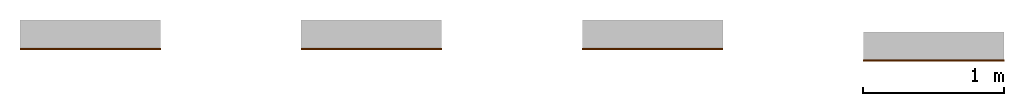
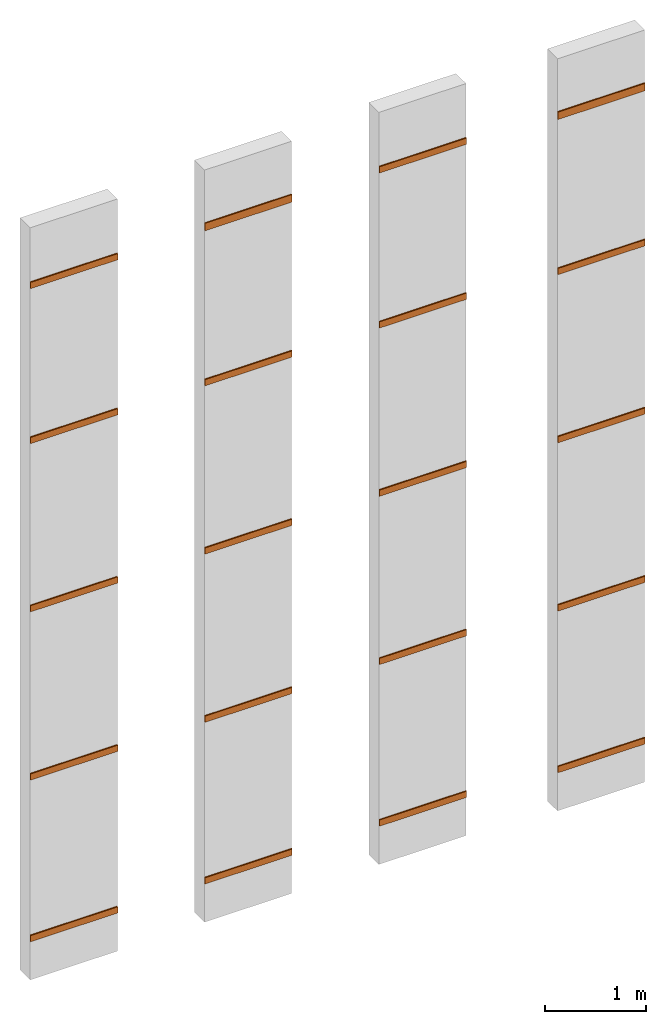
# One storey, part 2 of 2: 20 proxies.
"""IFC2X3 building model written with IfcOpenShell, lengths in millimetres."""

import ifcopenshell
import ifcopenshell.guid

model = None  # the IFC model being written
_history = None  # IfcOwnerHistory: only IFC2X3 demands one
_inside = {}  # id of a spatial element -> (the spatial element, [elements in it])
_under = {}  # id of a project, library or spatial element -> (it, [spatial elements below it])
_declared = {}  # id of a project -> (the project, [libraries it declares])
_typed = {}  # id of a type object -> (the type object, [elements of that type])
_made_of = {}  # id of a material, layer set ... -> (it, [elements and type objects made of it])


def new_model(schema):
    """Start an empty IFC model of exactly this schema.

    Asked for "IFC4X3", IfcOpenShell would pick the latest addendum, in which some entities
    have other attributes; the version numbers below select the first issue.
    IFC2X3 requires an IfcOwnerHistory on every rooted entity: one is made here for all.
    """
    global model, _history
    if schema == "IFC4X3":
        model = ifcopenshell.file(schema_version=(4, 3, 0, 0))
    else:
        model = ifcopenshell.file(schema=schema)
    _inside.clear()
    _under.clear()
    _declared.clear()
    _typed.clear()
    _made_of.clear()
    _history = None
    if model.schema == "IFC2X3":
        org = make("IfcOrganization", Name="unknown")
        user = make(
            "IfcPersonAndOrganization",
            ThePerson=make("IfcPerson", FamilyName="unknown"),
            TheOrganization=org,
        )
        app = make(
            "IfcApplication",
            ApplicationDeveloper=org,
            Version="unknown",
            ApplicationFullName="unknown",
            ApplicationIdentifier="unknown",
        )
        _history = make(
            "IfcOwnerHistory",
            OwningUser=user,
            OwningApplication=app,
            ChangeAction="ADDED",
            CreationDate=0,
        )
    return model


def make(cls, **values):
    """One entity of the class cls with the attributes given. An attribute that is None is left unset."""
    return model.create_entity(
        cls, **{name: value for name, value in values.items() if value is not None}
    )


def entity(cls, *values):
    """Any entity or typed value of the class cls, its attributes in the order of the schema. None: left unset."""
    e = model.create_entity(cls)
    for i, value in enumerate(values):
        if value is not None:
            e[i] = value
    return e


def rooted(cls, **values):
    """An entity with a GlobalId (a new one), such as an element, a storey or a relation."""
    return make(cls, GlobalId=ifcopenshell.guid.new(), OwnerHistory=_history, **values)


def si_unit(unit_type, name, prefix=None):
    """IfcSIUnit, for example si_unit("LENGTHUNIT", "METRE", prefix="MILLI")."""
    return make("IfcSIUnit", UnitType=unit_type, Prefix=prefix, Name=name)


def converted_unit(unit_type, name, factor, base, dimensions=None, offset=None):
    """IfcConversionBasedUnit, such as the inch: factor (a typed value) times the base unit."""
    return make(
        "IfcConversionBasedUnit"
        if offset is None
        else "IfcConversionBasedUnitWithOffset",
        ConversionOffset=offset,
        Dimensions=None
        if dimensions is None
        else entity("IfcDimensionalExponents", *dimensions),
        UnitType=unit_type,
        Name=name,
        ConversionFactor=make(
            "IfcMeasureWithUnit", ValueComponent=factor, UnitComponent=base
        ),
    )


def derived_unit(unit_type, elements):
    """IfcDerivedUnit: a product of units, each with its exponent."""
    return make(
        "IfcDerivedUnit",
        Elements=[
            make("IfcDerivedUnitElement", Unit=unit, Exponent=power)
            for unit, power in elements
        ],
        UnitType=unit_type,
    )


def assignment(units):
    """IfcUnitAssignment: the units of a project."""
    return None if units is None else make("IfcUnitAssignment", Units=units)


def point(xyz):
    """IfcCartesianPoint."""
    return None if xyz is None else make("IfcCartesianPoint", Coordinates=xyz)


def direction(xyz):
    """IfcDirection."""
    return None if xyz is None else make("IfcDirection", DirectionRatios=xyz)


def frame(location, z_axis=None, x_axis=None):
    """IfcAxis2Placement3D, a coordinate frame: its origin and axes. An axis left out is left unset."""
    return make(
        "IfcAxis2Placement3D",
        Location=point(location),
        Axis=direction(z_axis),
        RefDirection=direction(x_axis),
    )


def frame_2d(location, x_axis=None):
    """IfcAxis2Placement2D, a coordinate frame in the plane: its origin and x axis."""
    return make(
        "IfcAxis2Placement2D", Location=point(location), RefDirection=direction(x_axis)
    )


def origin():
    """The frame at (0, 0, 0) with its axes left unset."""
    return frame((0.0, 0.0, 0.0))


def place(relative_to, where):
    """IfcLocalPlacement: puts the frame where relative to a parent placement (None: the world)."""
    return make(
        "IfcLocalPlacement", PlacementRelTo=relative_to, RelativePlacement=where
    )


def context(
    kind, dimensions, precision=None, world=None, true_north=None, identifier=None
):
    """IfcGeometricRepresentationContext, for example the 3D "Model" context."""
    return make(
        "IfcGeometricRepresentationContext",
        ContextIdentifier=identifier,
        ContextType=kind,
        CoordinateSpaceDimension=dimensions,
        Precision=precision,
        WorldCoordinateSystem=world,
        TrueNorth=true_north,
    )


def subcontext(parent, identifier, kind, view, scale=None):
    """IfcGeometricRepresentationSubContext, for example "Body" below "Model"."""
    return make(
        "IfcGeometricRepresentationSubContext",
        ContextIdentifier=identifier,
        ContextType=kind,
        ParentContext=parent,
        TargetScale=scale,
        TargetView=view,
    )


def project(units=None, contexts=None):
    """IfcProject with its units and contexts."""
    return rooted(
        "IfcProject",
        Name="project",
        RepresentationContexts=contexts,
        UnitsInContext=assignment(units),
    )


def spatial(cls, under=None, at=None, **own):
    """A site, building, storey or space (cls), placed at a placement, below another one or the project."""
    s = rooted(cls, ObjectPlacement=at, **own)
    if under is not None:
        _under.setdefault(under.id(), (under, []))[1].append(s)
    return s


def polyline(points):
    """IfcPolyline through the points."""
    return make("IfcPolyline", Points=[point(p) for p in points])


def circle_curve(where, radius):
    """IfcCircle in the frame where."""
    return make("IfcCircle", Position=where, Radius=radius)


def parameter(value):
    """IfcParameterValue: where a trimmed curve begins or ends, as a parameter of its basis curve."""
    return model.create_entity("IfcParameterValue", value)


def trimmed(basis, trim1, trim2, sense, master):
    """IfcTrimmedCurve: the piece of a basis curve between two trims."""
    return make(
        "IfcTrimmedCurve",
        BasisCurve=basis,
        Trim1=trim1,
        Trim2=trim2,
        SenseAgreement=sense,
        MasterRepresentation=master,
    )


def segment(curve, same_sense, transition):
    """IfcCompositeCurveSegment."""
    return make(
        "IfcCompositeCurveSegment",
        Transition=transition,
        SameSense=same_sense,
        ParentCurve=curve,
    )


def composite_curve(segments, self_intersect=None):
    """IfcCompositeCurve: segments joined end to end."""
    return make("IfcCompositeCurve", Segments=segments, SelfIntersect=self_intersect)


def outline(outer, holes=None, kind="AREA"):
    """IfcArbitraryClosedProfileDef: a profile drawn as a closed curve; with holes, ...WithVoids."""
    if holes is None:
        return make("IfcArbitraryClosedProfileDef", ProfileType=kind, OuterCurve=outer)
    return make(
        "IfcArbitraryProfileDefWithVoids",
        ProfileType=kind,
        OuterCurve=outer,
        InnerCurves=holes,
    )


def extrude(swept, where, along, depth):
    """IfcExtrudedAreaSolid: the profile swept, set in the frame where, extruded along a direction by depth."""
    return make(
        "IfcExtrudedAreaSolid",
        SweptArea=swept,
        Position=where,
        ExtrudedDirection=direction(along),
        Depth=depth,
    )


def shape(context_of_items, identifier, shape_type, items):
    """IfcShapeRepresentation: the items that make up one representation, for example the "Body"."""
    return make(
        "IfcShapeRepresentation",
        ContextOfItems=context_of_items,
        RepresentationIdentifier=identifier,
        RepresentationType=shape_type,
        Items=items,
    )


def made_of(thing, what):
    """Note that an element or type object is made of a material, layer set ...; save() writes the relation."""
    if what is not None:
        _made_of.setdefault(what.id(), (what, []))[1].append(thing)
    return thing


def type_object(cls, material=None, **own):
    """A type object (cls), such as IfcWallType, which elements share."""
    return made_of(rooted(cls, **own), material)


def element(
    cls,
    number,
    at=None,
    inside=None,
    cuts=None,
    type_object=None,
    material=None,
    context=None,
    identifier="Body",
    shape_type=None,
    held_by="IfcProductDefinitionShape",
    body=None,
    shapes=None,
    **own,
):
    """One element of the class cls, such as IfcWall. Its Tag is "e" and its number.

    at: its placement. inside: the storey or other place that contains it. cuts: it is an
    opening in that element (IfcRelVoidsElement). A single representation is given by context,
    identifier, shape_type and body (its items); several are given by shapes. held_by: the class
    of the entity that holds the representations. save() writes the other relations.
    """
    e = rooted(cls, Tag="e%d" % number, ObjectPlacement=at, **own)
    if body is not None:
        shapes = [shape(context, identifier, shape_type, body)]
    if shapes is not None:
        e.Representation = make(held_by, Representations=shapes)
    if inside is not None:
        _inside.setdefault(inside.id(), (inside, []))[1].append(e)
    if cuts is not None:
        rooted(
            "IfcRelVoidsElement", RelatingBuildingElement=cuts, RelatedOpeningElement=e
        )
    if type_object is not None:
        _typed.setdefault(type_object.id(), (type_object, []))[1].append(e)
    return made_of(e, material)


def aggregate(whole, parts):
    """IfcRelAggregates: a whole, such as a stair, and the parts it consists of."""
    return rooted("IfcRelAggregates", RelatingObject=whole, RelatedObjects=parts)


def save(model, path):
    """Write the relations noted so far, then the file.

    IfcRelAggregates (storeys below a building ...), IfcRelContainedInSpatialStructure (elements
    in a storey), IfcRelDefinesByType, IfcRelAssociatesMaterial and IfcRelDeclares: one each for
    every whole, place, type object, material and project.
    """
    for whole, parts in _under.values():
        aggregate(whole, parts)
    for where, things in _inside.values():
        rooted(
            "IfcRelContainedInSpatialStructure",
            RelatedElements=things,
            RelatingStructure=where,
        )
    for kind, things in _typed.values():
        rooted("IfcRelDefinesByType", RelatedObjects=things, RelatingType=kind)
    for what, things in _made_of.values():
        rooted("IfcRelAssociatesMaterial", RelatedObjects=things, RelatingMaterial=what)
    for by, libraries in _declared.values():
        rooted("IfcRelDeclares", RelatingContext=by, RelatedDefinitions=libraries)
    model.write(path)


model = new_model("IFC2X3")

# Units and contexts
model_context = context("Model", 3, precision=0.01, world=origin(), true_north=direction((6.12303176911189e-17, 1.0)))
body_context = subcontext(model_context, "Body", "Model", "MODEL_VIEW")
ifc_project = project(units=[si_unit("LENGTHUNIT", "METRE", prefix="MILLI"), si_unit("AREAUNIT", "SQUARE_METRE"), si_unit("VOLUMEUNIT", "CUBIC_METRE"), converted_unit("PLANEANGLEUNIT", "DEGREE", entity("IfcRatioMeasure", 0.0174532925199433), si_unit("PLANEANGLEUNIT", "RADIAN"), dimensions=[0, 0, 0, 0, 0, 0, 0]), si_unit("MASSUNIT", "GRAM", prefix="KILO"), derived_unit("MASSDENSITYUNIT", [(si_unit("MASSUNIT", "GRAM", prefix="KILO"), 1), (si_unit("LENGTHUNIT", "METRE"), -3)]), derived_unit("MOMENTOFINERTIAUNIT", [(si_unit("LENGTHUNIT", "METRE"), 4)]), si_unit("TIMEUNIT", "SECOND"), si_unit("FREQUENCYUNIT", "HERTZ"), si_unit("THERMODYNAMICTEMPERATUREUNIT", "DEGREE_CELSIUS"), derived_unit("THERMALTRANSMITTANCEUNIT", [(si_unit("MASSUNIT", "GRAM", prefix="KILO"), 1), (si_unit("THERMODYNAMICTEMPERATUREUNIT", "KELVIN"), -1), (si_unit("TIMEUNIT", "SECOND"), -3)]), derived_unit("VOLUMETRICFLOWRATEUNIT", [(si_unit("LENGTHUNIT", "METRE"), 3), (si_unit("TIMEUNIT", "SECOND"), -1)]), si_unit("ELECTRICCURRENTUNIT", "AMPERE"), si_unit("ELECTRICVOLTAGEUNIT", "VOLT"), si_unit("POWERUNIT", "WATT"), si_unit("FORCEUNIT", "NEWTON", prefix="KILO"), si_unit("ILLUMINANCEUNIT", "LUX"), si_unit("LUMINOUSFLUXUNIT", "LUMEN"), si_unit("LUMINOUSINTENSITYUNIT", "CANDELA"), derived_unit("USERDEFINED", [(si_unit("MASSUNIT", "GRAM", prefix="KILO"), -1), (si_unit("LENGTHUNIT", "METRE"), -2), (si_unit("TIMEUNIT", "SECOND"), 3), (si_unit("LUMINOUSFLUXUNIT", "LUMEN"), 1)]), derived_unit("LINEARVELOCITYUNIT", [(si_unit("LENGTHUNIT", "METRE"), 1), (si_unit("TIMEUNIT", "SECOND"), -1)]), si_unit("PRESSUREUNIT", "PASCAL"), derived_unit("USERDEFINED", [(si_unit("LENGTHUNIT", "METRE"), -2), (si_unit("MASSUNIT", "GRAM", prefix="KILO"), 1), (si_unit("TIMEUNIT", "SECOND"), -2)]), derived_unit("LINEARFORCEUNIT", [(si_unit("MASSUNIT", "GRAM", prefix="KILO"), 1), (si_unit("LENGTHUNIT", "METRE"), 1), (si_unit("TIMEUNIT", "SECOND"), -2), (si_unit("LENGTHUNIT", "METRE"), -1)]), derived_unit("PLANARFORCEUNIT", [(si_unit("MASSUNIT", "GRAM", prefix="KILO"), 1), (si_unit("LENGTHUNIT", "METRE"), 1), (si_unit("TIMEUNIT", "SECOND"), -2), (si_unit("LENGTHUNIT", "METRE"), -2)])], contexts=[model_context])

# Site, building, storey
site_placement = place(None, origin())
site = spatial("IfcSite", under=ifc_project, at=site_placement, Name="Default", CompositionType="ELEMENT")
building_placement = place(site_placement, origin())
building = spatial("IfcBuilding", under=site, at=building_placement, CompositionType="ELEMENT")
storey_placement = place(building_placement, origin())
storey = spatial("IfcBuildingStorey", under=building, at=storey_placement, Name="Level 1", CompositionType="ELEMENT", Elevation=0.0)

# Proxies
building_element_proxy_type_1 = type_object("IfcBuildingElementProxyType", Name="Wall Sweep:REVIGRÉS-RULE-RB-8X45-SOFT GRIP-ALLOY", PredefinedType="NOTDEFINED")
proxy_1_placement = place(storey_placement, origin())
element("IfcBuildingElementProxy", 1, at=proxy_1_placement, inside=storey, type_object=building_element_proxy_type_1, Name="Wall Sweep:REVIGRÉS-RULE-RB-8X45-SOFT GRIP-ALLOY", ObjectType="Wall Sweep:REVIGRÉS-RULE-RB-8X45-SOFT GRIP-ALLOY", context=body_context, shape_type="SweptSolid", body=[
    extrude(outline(composite_curve([segment(polyline([(-37.3750000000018, -5.25), (42.6249999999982, -5.25)]), True, "CONTINUOUS"), segment(trimmed(circle_curve(frame_2d((32.1249999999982, -5.25), x_axis=(0.0, 1.0)), 10.4999999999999), [parameter(270.0)], [parameter(0.0)], True, "PARAMETER"), True, "CONTINUOUS"), segment(polyline([(32.1249999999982, 5.24999999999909), (-37.3750000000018, 5.24999999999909)]), True, "CONTINUOUS"), segment(polyline([(-37.3750000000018, 5.24999999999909), (-37.3750000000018, -5.25)]), True, "CONTINUOUS")], self_intersect=False)), frame((7591.50231570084, -7688.16446572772, -11700.8763221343), z_axis=(1.0, 0.0, 0.0), x_axis=(0.0, 0.0, 1.0)), (0.0, 0.0, 1.0), 1000.0),
])
building_element_proxy_type_2 = type_object("IfcBuildingElementProxyType", Name="Wall Sweep:REVIGRÉS-RULE-RB-8X60-SOFT GRIP-ALLOY", PredefinedType="NOTDEFINED")
proxy_2_placement = place(storey_placement, origin())
element("IfcBuildingElementProxy", 2, at=proxy_2_placement, inside=storey, type_object=building_element_proxy_type_2, Name="Wall Sweep:REVIGRÉS-RULE-RB-8X60-SOFT GRIP-ALLOY", ObjectType="Wall Sweep:REVIGRÉS-RULE-RB-8X60-SOFT GRIP-ALLOY", context=body_context, shape_type="SweptSolid", body=[
    extrude(outline(composite_curve([segment(polyline([(-37.375, -5.25), (42.625, -5.25)]), True, "CONTINUOUS"), segment(trimmed(circle_curve(frame_2d((32.125, -5.25), x_axis=(0.0, 1.0)), 10.4999999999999), [parameter(270.0)], [parameter(0.0)], True, "PARAMETER"), True, "CONTINUOUS"), segment(polyline([(32.125, 5.24999999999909), (-37.375, 5.24999999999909)]), True, "CONTINUOUS"), segment(polyline([(-37.375, 5.24999999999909), (-37.375, -5.25)]), True, "CONTINUOUS")], self_intersect=False)), frame((7591.50231570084, -7688.16446572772, -9740.87632213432), z_axis=(1.0, 0.0, 0.0), x_axis=(0.0, 0.0, 1.0)), (0.0, 0.0, 1.0), 1000.0),
])
building_element_proxy_type_3 = type_object("IfcBuildingElementProxyType", Name="Wall Sweep:REVIGRÉS-RULE-RB-8X90-SOFT GRIP-ALLOY", PredefinedType="NOTDEFINED")
proxy_3_placement = place(storey_placement, origin())
element("IfcBuildingElementProxy", 3, at=proxy_3_placement, inside=storey, type_object=building_element_proxy_type_3, Name="Wall Sweep:REVIGRÉS-RULE-RB-8X90-SOFT GRIP-ALLOY", ObjectType="Wall Sweep:REVIGRÉS-RULE-RB-8X90-SOFT GRIP-ALLOY", context=body_context, shape_type="SweptSolid", body=[
    extrude(outline(composite_curve([segment(polyline([(-37.3750000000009, -5.25), (42.625, -5.25)]), True, "CONTINUOUS"), segment(trimmed(circle_curve(frame_2d((32.125, -5.25), x_axis=(0.0, 1.0)), 10.4999999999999), [parameter(270.0)], [parameter(0.0)], True, "PARAMETER"), True, "CONTINUOUS"), segment(polyline([(32.125, 5.24999999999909), (-37.3750000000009, 5.24999999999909)]), True, "CONTINUOUS"), segment(polyline([(-37.3750000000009, 5.24999999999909), (-37.3750000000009, -5.25)]), True, "CONTINUOUS")], self_intersect=False)), frame((7591.50231570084, -7688.16446572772, -7700.87632213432), z_axis=(1.0, 0.0, 0.0), x_axis=(0.0, 0.0, 1.0)), (0.0, 0.0, 1.0), 1000.0),
])
building_element_proxy_type_4 = type_object("IfcBuildingElementProxyType", Name="Wall Sweep:REVIGRÉS-RULE-RB-8X120-SOFT GRIP-ALLOY", PredefinedType="NOTDEFINED")
proxy_4_placement = place(storey_placement, origin())
element("IfcBuildingElementProxy", 4, at=proxy_4_placement, inside=storey, type_object=building_element_proxy_type_4, Name="Wall Sweep:REVIGRÉS-RULE-RB-8X120-SOFT GRIP-ALLOY", ObjectType="Wall Sweep:REVIGRÉS-RULE-RB-8X120-SOFT GRIP-ALLOY", context=body_context, shape_type="SweptSolid", body=[
    extrude(outline(composite_curve([segment(polyline([(-37.375, -5.25), (42.625, -5.25)]), True, "CONTINUOUS"), segment(trimmed(circle_curve(frame_2d((32.125, -5.25), x_axis=(0.0, 1.0)), 10.4999999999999), [parameter(270.0)], [parameter(0.0)], True, "PARAMETER"), True, "CONTINUOUS"), segment(polyline([(32.125, 5.24999999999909), (-37.375, 5.24999999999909)]), True, "CONTINUOUS"), segment(polyline([(-37.375, 5.24999999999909), (-37.375, -5.25)]), True, "CONTINUOUS")], self_intersect=False)), frame((7591.50231570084, -7688.16446572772, -5660.87632213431), z_axis=(1.0, 0.0, 0.0), x_axis=(0.0, 0.0, 1.0)), (0.0, 0.0, 1.0), 1000.0),
])
building_element_proxy_type_5 = type_object("IfcBuildingElementProxyType", Name="Wall Sweep:REVIGRÉS-RULE-RB-9.5X30-SOFT GRIP-ALLOY", PredefinedType="NOTDEFINED")
proxy_5_placement = place(storey_placement, origin())
element("IfcBuildingElementProxy", 5, at=proxy_5_placement, inside=storey, type_object=building_element_proxy_type_5, Name="Wall Sweep:REVIGRÉS-RULE-RB-9.5X30-SOFT GRIP-ALLOY", ObjectType="Wall Sweep:REVIGRÉS-RULE-RB-9.5X30-SOFT GRIP-ALLOY", context=body_context, shape_type="SweptSolid", body=[
    extrude(outline(composite_curve([segment(polyline([(-44.875, -5.25), (50.125, -5.25)]), True, "CONTINUOUS"), segment(trimmed(circle_curve(frame_2d((39.625, -5.25), x_axis=(0.0, 1.0)), 10.4999999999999), [parameter(270.0)], [parameter(0.0)], True, "PARAMETER"), True, "CONTINUOUS"), segment(polyline([(39.625, 5.24999999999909), (-44.875, 5.24999999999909)]), True, "CONTINUOUS"), segment(polyline([(-44.875, 5.24999999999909), (-44.875, -5.25)]), True, "CONTINUOUS")], self_intersect=False)), frame((7591.50231570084, -7688.16446572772, -3773.37632213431), z_axis=(1.0, 0.0, 0.0), x_axis=(0.0, 0.0, 1.0)), (0.0, 0.0, 1.0), 1000.0),
])
building_element_proxy_type_6 = type_object("IfcBuildingElementProxyType", Name="Wall Sweep:REVIGRÉS-RULE-RB-8X60-SOFT GRIP-SMOG", PredefinedType="NOTDEFINED")
proxy_6_placement = place(storey_placement, origin())
element("IfcBuildingElementProxy", 6, at=proxy_6_placement, inside=storey, type_object=building_element_proxy_type_6, Name="Wall Sweep:REVIGRÉS-RULE-RB-8X60-SOFT GRIP-SMOG", ObjectType="Wall Sweep:REVIGRÉS-RULE-RB-8X60-SOFT GRIP-SMOG", context=body_context, shape_type="SweptSolid", body=[
    extrude(outline(composite_curve([segment(polyline([(-37.375, -5.24999999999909), (42.625, -5.24999999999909)]), True, "CONTINUOUS"), segment(trimmed(circle_curve(frame_2d((32.125, -5.24999999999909), x_axis=(0.0, 1.0)), 10.4999999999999), [parameter(270.0)], [parameter(0.0)], True, "PARAMETER"), True, "CONTINUOUS"), segment(polyline([(32.125, 5.25000000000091), (-37.375, 5.25000000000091)]), True, "CONTINUOUS"), segment(polyline([(-37.375, 5.25000000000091), (-37.375, -5.24999999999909)]), True, "CONTINUOUS")], self_intersect=False)), frame((11591.5023157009, -7772.56164211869, -9740.87632213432), z_axis=(1.0, 0.0, 0.0), x_axis=(0.0, 0.0, 1.0)), (0.0, 0.0, 1.0), 1000.0),
])
building_element_proxy_type_7 = type_object("IfcBuildingElementProxyType", Name="Wall Sweep:REVIGRÉS-RULE-RB-8X90-SOFT GRIP-SMOG", PredefinedType="NOTDEFINED")
proxy_7_placement = place(storey_placement, origin())
element("IfcBuildingElementProxy", 7, at=proxy_7_placement, inside=storey, type_object=building_element_proxy_type_7, Name="Wall Sweep:REVIGRÉS-RULE-RB-8X90-SOFT GRIP-SMOG", ObjectType="Wall Sweep:REVIGRÉS-RULE-RB-8X90-SOFT GRIP-SMOG", context=body_context, shape_type="SweptSolid", body=[
    extrude(outline(composite_curve([segment(polyline([(-37.3750000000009, -5.24999999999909), (42.625, -5.24999999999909)]), True, "CONTINUOUS"), segment(trimmed(circle_curve(frame_2d((32.125, -5.24999999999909), x_axis=(0.0, 1.0)), 10.4999999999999), [parameter(270.0)], [parameter(0.0)], True, "PARAMETER"), True, "CONTINUOUS"), segment(polyline([(32.125, 5.25000000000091), (-37.3750000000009, 5.25000000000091)]), True, "CONTINUOUS"), segment(polyline([(-37.3750000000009, 5.25000000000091), (-37.3750000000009, -5.24999999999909)]), True, "CONTINUOUS")], self_intersect=False)), frame((11591.5023157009, -7772.56164211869, -7700.87632213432), z_axis=(1.0, 0.0, 0.0), x_axis=(0.0, 0.0, 1.0)), (0.0, 0.0, 1.0), 1000.0),
])
building_element_proxy_type_8 = type_object("IfcBuildingElementProxyType", Name="Wall Sweep:REVIGRÉS-RULE-RB-8X120-SOFT GRIP-SMOG", PredefinedType="NOTDEFINED")
proxy_8_placement = place(storey_placement, origin())
element("IfcBuildingElementProxy", 8, at=proxy_8_placement, inside=storey, type_object=building_element_proxy_type_8, Name="Wall Sweep:REVIGRÉS-RULE-RB-8X120-SOFT GRIP-SMOG", ObjectType="Wall Sweep:REVIGRÉS-RULE-RB-8X120-SOFT GRIP-SMOG", context=body_context, shape_type="SweptSolid", body=[
    extrude(outline(composite_curve([segment(polyline([(-37.375, -5.24999999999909), (42.625, -5.24999999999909)]), True, "CONTINUOUS"), segment(trimmed(circle_curve(frame_2d((32.125, -5.24999999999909), x_axis=(0.0, 1.0)), 10.4999999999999), [parameter(270.0)], [parameter(0.0)], True, "PARAMETER"), True, "CONTINUOUS"), segment(polyline([(32.125, 5.25000000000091), (-37.375, 5.25000000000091)]), True, "CONTINUOUS"), segment(polyline([(-37.375, 5.25000000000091), (-37.375, -5.24999999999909)]), True, "CONTINUOUS")], self_intersect=False)), frame((11591.5023157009, -7772.56164211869, -5660.87632213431), z_axis=(1.0, 0.0, 0.0), x_axis=(0.0, 0.0, 1.0)), (0.0, 0.0, 1.0), 1000.0),
])
building_element_proxy_type_9 = type_object("IfcBuildingElementProxyType", Name="Wall Sweep:REVIGRÉS-RULE-RB-9.5X30-SOFT GRIP-SMOG", PredefinedType="NOTDEFINED")
proxy_9_placement = place(storey_placement, origin())
element("IfcBuildingElementProxy", 9, at=proxy_9_placement, inside=storey, type_object=building_element_proxy_type_9, Name="Wall Sweep:REVIGRÉS-RULE-RB-9.5X30-SOFT GRIP-SMOG", ObjectType="Wall Sweep:REVIGRÉS-RULE-RB-9.5X30-SOFT GRIP-SMOG", context=body_context, shape_type="SweptSolid", body=[
    extrude(outline(composite_curve([segment(polyline([(-44.875, -5.24999999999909), (50.125, -5.24999999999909)]), True, "CONTINUOUS"), segment(trimmed(circle_curve(frame_2d((39.625, -5.24999999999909), x_axis=(0.0, 1.0)), 10.4999999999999), [parameter(270.0)], [parameter(0.0)], True, "PARAMETER"), True, "CONTINUOUS"), segment(polyline([(39.625, 5.25000000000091), (-44.875, 5.25000000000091)]), True, "CONTINUOUS"), segment(polyline([(-44.875, 5.25000000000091), (-44.875, -5.24999999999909)]), True, "CONTINUOUS")], self_intersect=False)), frame((11591.5023157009, -7772.56164211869, -3773.37632213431), z_axis=(1.0, 0.0, 0.0), x_axis=(0.0, 0.0, 1.0)), (0.0, 0.0, 1.0), 1000.0),
])
building_element_proxy_type_10 = type_object("IfcBuildingElementProxyType", Name="Wall Sweep:REVIGRÉS-RULE-RB-8X45-SILK-ALLOY", PredefinedType="NOTDEFINED")
proxy_10_placement = place(storey_placement, origin())
element("IfcBuildingElementProxy", 10, at=proxy_10_placement, inside=storey, type_object=building_element_proxy_type_10, Name="Wall Sweep:REVIGRÉS-RULE-RB-8X45-SILK-ALLOY", ObjectType="Wall Sweep:REVIGRÉS-RULE-RB-8X45-SILK-ALLOY", context=body_context, shape_type="SweptSolid", body=[
    extrude(outline(composite_curve([segment(polyline([(-37.3750000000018, -5.25), (42.6249999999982, -5.25)]), True, "CONTINUOUS"), segment(trimmed(circle_curve(frame_2d((32.1249999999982, -5.25), x_axis=(0.0, 1.0)), 10.4999999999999), [parameter(270.0)], [parameter(0.0)], True, "PARAMETER"), True, "CONTINUOUS"), segment(polyline([(32.1249999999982, 5.25), (-37.3750000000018, 5.25)]), True, "CONTINUOUS"), segment(polyline([(-37.3750000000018, 5.25), (-37.3750000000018, -5.25)]), True, "CONTINUOUS")], self_intersect=False)), frame((5591.50231570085, -7688.16446572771, -11700.8763221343), z_axis=(1.0, 0.0, 0.0), x_axis=(0.0, 0.0, 1.0)), (0.0, 0.0, 1.0), 1000.0),
])
building_element_proxy_type_11 = type_object("IfcBuildingElementProxyType", Name="Wall Sweep:REVIGRÉS-RULE-RB-8X60-SILK-ALLOY", PredefinedType="NOTDEFINED")
proxy_11_placement = place(storey_placement, origin())
element("IfcBuildingElementProxy", 11, at=proxy_11_placement, inside=storey, type_object=building_element_proxy_type_11, Name="Wall Sweep:REVIGRÉS-RULE-RB-8X60-SILK-ALLOY", ObjectType="Wall Sweep:REVIGRÉS-RULE-RB-8X60-SILK-ALLOY", context=body_context, shape_type="SweptSolid", body=[
    extrude(outline(composite_curve([segment(polyline([(-37.375, -5.25), (42.625, -5.25)]), True, "CONTINUOUS"), segment(trimmed(circle_curve(frame_2d((32.125, -5.25), x_axis=(0.0, 1.0)), 10.4999999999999), [parameter(270.0)], [parameter(0.0)], True, "PARAMETER"), True, "CONTINUOUS"), segment(polyline([(32.125, 5.25), (-37.375, 5.25)]), True, "CONTINUOUS"), segment(polyline([(-37.375, 5.25), (-37.375, -5.25)]), True, "CONTINUOUS")], self_intersect=False)), frame((5591.50231570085, -7688.16446572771, -9740.87632213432), z_axis=(1.0, 0.0, 0.0), x_axis=(0.0, 0.0, 1.0)), (0.0, 0.0, 1.0), 1000.0),
])
building_element_proxy_type_12 = type_object("IfcBuildingElementProxyType", Name="Wall Sweep:REVIGRÉS-RULE-RB-8X90-SILK-ALLOY", PredefinedType="NOTDEFINED")
proxy_12_placement = place(storey_placement, origin())
element("IfcBuildingElementProxy", 12, at=proxy_12_placement, inside=storey, type_object=building_element_proxy_type_12, Name="Wall Sweep:REVIGRÉS-RULE-RB-8X90-SILK-ALLOY", ObjectType="Wall Sweep:REVIGRÉS-RULE-RB-8X90-SILK-ALLOY", context=body_context, shape_type="SweptSolid", body=[
    extrude(outline(composite_curve([segment(polyline([(-37.3750000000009, -5.25), (42.625, -5.25)]), True, "CONTINUOUS"), segment(trimmed(circle_curve(frame_2d((32.125, -5.25), x_axis=(0.0, 1.0)), 10.4999999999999), [parameter(270.0)], [parameter(0.0)], True, "PARAMETER"), True, "CONTINUOUS"), segment(polyline([(32.125, 5.25), (-37.3750000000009, 5.25)]), True, "CONTINUOUS"), segment(polyline([(-37.3750000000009, 5.25), (-37.3750000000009, -5.25)]), True, "CONTINUOUS")], self_intersect=False)), frame((5591.50231570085, -7688.16446572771, -7700.87632213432), z_axis=(1.0, 0.0, 0.0), x_axis=(0.0, 0.0, 1.0)), (0.0, 0.0, 1.0), 1000.0),
])
building_element_proxy_type_13 = type_object("IfcBuildingElementProxyType", Name="Wall Sweep:REVIGRÉS-RULE-RB-8X120-SILK-ALLOY", PredefinedType="NOTDEFINED")
proxy_13_placement = place(storey_placement, origin())
element("IfcBuildingElementProxy", 13, at=proxy_13_placement, inside=storey, type_object=building_element_proxy_type_13, Name="Wall Sweep:REVIGRÉS-RULE-RB-8X120-SILK-ALLOY", ObjectType="Wall Sweep:REVIGRÉS-RULE-RB-8X120-SILK-ALLOY", context=body_context, shape_type="SweptSolid", body=[
    extrude(outline(composite_curve([segment(polyline([(-37.375, -5.25), (42.625, -5.25)]), True, "CONTINUOUS"), segment(trimmed(circle_curve(frame_2d((32.125, -5.25), x_axis=(0.0, 1.0)), 10.4999999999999), [parameter(270.0)], [parameter(0.0)], True, "PARAMETER"), True, "CONTINUOUS"), segment(polyline([(32.125, 5.25), (-37.375, 5.25)]), True, "CONTINUOUS"), segment(polyline([(-37.375, 5.25), (-37.375, -5.25)]), True, "CONTINUOUS")], self_intersect=False)), frame((5591.50231570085, -7688.16446572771, -5660.87632213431), z_axis=(1.0, 0.0, 0.0), x_axis=(0.0, 0.0, 1.0)), (0.0, 0.0, 1.0), 1000.0),
])
building_element_proxy_type_14 = type_object("IfcBuildingElementProxyType", Name="Wall Sweep:REVIGRÉS-RULE-RB-9.5X30-SILK-ALLOY", PredefinedType="NOTDEFINED")
proxy_14_placement = place(storey_placement, origin())
element("IfcBuildingElementProxy", 14, at=proxy_14_placement, inside=storey, type_object=building_element_proxy_type_14, Name="Wall Sweep:REVIGRÉS-RULE-RB-9.5X30-SILK-ALLOY", ObjectType="Wall Sweep:REVIGRÉS-RULE-RB-9.5X30-SILK-ALLOY", context=body_context, shape_type="SweptSolid", body=[
    extrude(outline(composite_curve([segment(polyline([(-37.375, -5.25), (42.625, -5.25)]), True, "CONTINUOUS"), segment(trimmed(circle_curve(frame_2d((32.1250000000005, -5.25), x_axis=(0.0, 1.0)), 10.4999999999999), [parameter(270.0)], [parameter(0.0)], True, "PARAMETER"), True, "CONTINUOUS"), segment(polyline([(32.1250000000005, 5.25), (-37.375, 5.25)]), True, "CONTINUOUS"), segment(polyline([(-37.375, 5.25), (-37.375, -5.25)]), True, "CONTINUOUS")], self_intersect=False)), frame((5591.50231570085, -7688.16446572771, -3780.87632213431), z_axis=(1.0, 0.0, 0.0), x_axis=(0.0, 0.0, 1.0)), (0.0, 0.0, 1.0), 1000.0),
])
building_element_proxy_type_15 = type_object("IfcBuildingElementProxyType", Name="Wall Sweep:REVIGRÉS-RULE-RB-8X45-SOFT GRIP-SMOG", PredefinedType="NOTDEFINED")
proxy_15_placement = place(storey_placement, origin())
element("IfcBuildingElementProxy", 15, at=proxy_15_placement, inside=storey, type_object=building_element_proxy_type_15, Name="Wall Sweep:REVIGRÉS-RULE-RB-8X45-SOFT GRIP-SMOG", ObjectType="Wall Sweep:REVIGRÉS-RULE-RB-8X45-SOFT GRIP-SMOG", context=body_context, shape_type="SweptSolid", body=[
    extrude(outline(composite_curve([segment(polyline([(-37.3750000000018, -5.24999999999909), (42.6249999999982, -5.24999999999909)]), True, "CONTINUOUS"), segment(trimmed(circle_curve(frame_2d((32.1249999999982, -5.24999999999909), x_axis=(0.0, 1.0)), 10.4999999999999), [parameter(270.0)], [parameter(0.0)], True, "PARAMETER"), True, "CONTINUOUS"), segment(polyline([(32.1249999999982, 5.25000000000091), (-37.3750000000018, 5.25000000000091)]), True, "CONTINUOUS"), segment(polyline([(-37.3750000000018, 5.25000000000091), (-37.3750000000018, -5.24999999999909)]), True, "CONTINUOUS")], self_intersect=False)), frame((11591.5023157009, -7772.56164211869, -11700.8763221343), z_axis=(1.0, 0.0, 0.0), x_axis=(0.0, 0.0, 1.0)), (0.0, 0.0, 1.0), 1000.0),
])
building_element_proxy_type_16 = type_object("IfcBuildingElementProxyType", Name="Wall Sweep:REVIGRÉS-RULE-RB-8X45-SILK-SMOG", PredefinedType="NOTDEFINED")
proxy_16_placement = place(storey_placement, origin())
element("IfcBuildingElementProxy", 16, at=proxy_16_placement, inside=storey, type_object=building_element_proxy_type_16, Name="Wall Sweep:REVIGRÉS-RULE-RB-8X45-SILK-SMOG", ObjectType="Wall Sweep:REVIGRÉS-RULE-RB-8X45-SILK-SMOG", context=body_context, shape_type="SweptSolid", body=[
    extrude(outline(composite_curve([segment(polyline([(-37.3750000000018, -5.25), (42.6249999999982, -5.25)]), True, "CONTINUOUS"), segment(trimmed(circle_curve(frame_2d((32.1249999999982, -5.25), x_axis=(0.0, 1.0)), 10.4999999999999), [parameter(270.0)], [parameter(0.0)], True, "PARAMETER"), True, "CONTINUOUS"), segment(polyline([(32.1249999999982, 5.25), (-37.3750000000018, 5.25)]), True, "CONTINUOUS"), segment(polyline([(-37.3750000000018, 5.25), (-37.3750000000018, -5.25)]), True, "CONTINUOUS")], self_intersect=False)), frame((9591.50231570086, -7688.16446572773, -11700.8763221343), z_axis=(1.0, 0.0, 0.0), x_axis=(0.0, 0.0, 1.0)), (0.0, 0.0, 1.0), 1000.0),
])
building_element_proxy_type_17 = type_object("IfcBuildingElementProxyType", Name="Wall Sweep:REVIGRÉS-RULE-RB-8X60-SILK-SMOG", PredefinedType="NOTDEFINED")
proxy_17_placement = place(storey_placement, origin())
element("IfcBuildingElementProxy", 17, at=proxy_17_placement, inside=storey, type_object=building_element_proxy_type_17, Name="Wall Sweep:REVIGRÉS-RULE-RB-8X60-SILK-SMOG", ObjectType="Wall Sweep:REVIGRÉS-RULE-RB-8X60-SILK-SMOG", context=body_context, shape_type="SweptSolid", body=[
    extrude(outline(composite_curve([segment(polyline([(-37.375, -5.25), (42.625, -5.25)]), True, "CONTINUOUS"), segment(trimmed(circle_curve(frame_2d((32.125, -5.25), x_axis=(0.0, 1.0)), 10.4999999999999), [parameter(270.0)], [parameter(0.0)], True, "PARAMETER"), True, "CONTINUOUS"), segment(polyline([(32.125, 5.25), (-37.375, 5.25)]), True, "CONTINUOUS"), segment(polyline([(-37.375, 5.25), (-37.375, -5.25)]), True, "CONTINUOUS")], self_intersect=False)), frame((9591.50231570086, -7688.16446572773, -9740.87632213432), z_axis=(1.0, 0.0, 0.0), x_axis=(0.0, 0.0, 1.0)), (0.0, 0.0, 1.0), 1000.0),
])
building_element_proxy_type_18 = type_object("IfcBuildingElementProxyType", Name="Wall Sweep:REVIGRÉS-RULE-RB-8X90-SILK-SMOG", PredefinedType="NOTDEFINED")
proxy_18_placement = place(storey_placement, origin())
element("IfcBuildingElementProxy", 18, at=proxy_18_placement, inside=storey, type_object=building_element_proxy_type_18, Name="Wall Sweep:REVIGRÉS-RULE-RB-8X90-SILK-SMOG", ObjectType="Wall Sweep:REVIGRÉS-RULE-RB-8X90-SILK-SMOG", context=body_context, shape_type="SweptSolid", body=[
    extrude(outline(composite_curve([segment(polyline([(-37.3750000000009, -5.25), (42.625, -5.25)]), True, "CONTINUOUS"), segment(trimmed(circle_curve(frame_2d((32.125, -5.25), x_axis=(0.0, 1.0)), 10.4999999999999), [parameter(270.0)], [parameter(0.0)], True, "PARAMETER"), True, "CONTINUOUS"), segment(polyline([(32.125, 5.25), (-37.3750000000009, 5.25)]), True, "CONTINUOUS"), segment(polyline([(-37.3750000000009, 5.25), (-37.3750000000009, -5.25)]), True, "CONTINUOUS")], self_intersect=False)), frame((9591.50231570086, -7688.16446572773, -7700.87632213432), z_axis=(1.0, 0.0, 0.0), x_axis=(0.0, 0.0, 1.0)), (0.0, 0.0, 1.0), 1000.0),
])
building_element_proxy_type_19 = type_object("IfcBuildingElementProxyType", Name="Wall Sweep:REVIGRÉS-RULE-RB-8X120-SILK-SMOG", PredefinedType="NOTDEFINED")
proxy_19_placement = place(storey_placement, origin())
element("IfcBuildingElementProxy", 19, at=proxy_19_placement, inside=storey, type_object=building_element_proxy_type_19, Name="Wall Sweep:REVIGRÉS-RULE-RB-8X120-SILK-SMOG", ObjectType="Wall Sweep:REVIGRÉS-RULE-RB-8X120-SILK-SMOG", context=body_context, shape_type="SweptSolid", body=[
    extrude(outline(composite_curve([segment(polyline([(-37.375, -5.25), (42.625, -5.25)]), True, "CONTINUOUS"), segment(trimmed(circle_curve(frame_2d((32.125, -5.25), x_axis=(0.0, 1.0)), 10.4999999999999), [parameter(270.0)], [parameter(0.0)], True, "PARAMETER"), True, "CONTINUOUS"), segment(polyline([(32.125, 5.25), (-37.375, 5.25)]), True, "CONTINUOUS"), segment(polyline([(-37.375, 5.25), (-37.375, -5.25)]), True, "CONTINUOUS")], self_intersect=False)), frame((9591.50231570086, -7688.16446572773, -5660.87632213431), z_axis=(1.0, 0.0, 0.0), x_axis=(0.0, 0.0, 1.0)), (0.0, 0.0, 1.0), 1000.0),
])
building_element_proxy_type_20 = type_object("IfcBuildingElementProxyType", Name="Wall Sweep:REVIGRÉS-RULE-RB-9.5X30-SILK-SMOG", PredefinedType="NOTDEFINED")
proxy_20_placement = place(storey_placement, origin())
element("IfcBuildingElementProxy", 20, at=proxy_20_placement, inside=storey, type_object=building_element_proxy_type_20, Name="Wall Sweep:REVIGRÉS-RULE-RB-9.5X30-SILK-SMOG", ObjectType="Wall Sweep:REVIGRÉS-RULE-RB-9.5X30-SILK-SMOG", context=body_context, shape_type="SweptSolid", body=[
    extrude(outline(composite_curve([segment(polyline([(-37.375, -5.25), (42.625, -5.25)]), True, "CONTINUOUS"), segment(trimmed(circle_curve(frame_2d((32.1250000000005, -5.25), x_axis=(0.0, 1.0)), 10.4999999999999), [parameter(270.0)], [parameter(0.0)], True, "PARAMETER"), True, "CONTINUOUS"), segment(polyline([(32.1250000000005, 5.25), (-37.375, 5.25)]), True, "CONTINUOUS"), segment(polyline([(-37.375, 5.25), (-37.375, -5.25)]), True, "CONTINUOUS")], self_intersect=False)), frame((9591.50231570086, -7688.16446572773, -3780.87632213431), z_axis=(1.0, 0.0, 0.0), x_axis=(0.0, 0.0, 1.0)), (0.0, 0.0, 1.0), 1000.0),
])

save(model, "model.ifc")
